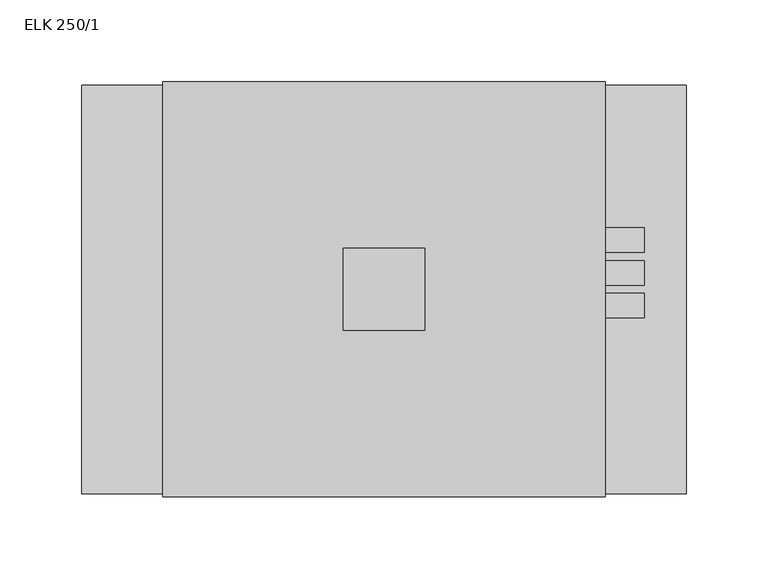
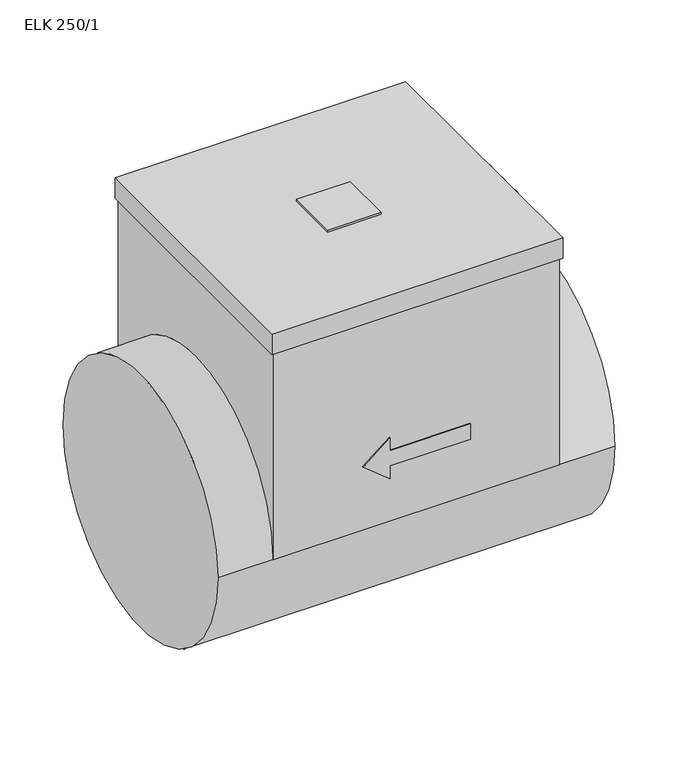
"""IFC4 building model written with IfcOpenShell, lengths in millimetres: proxy geometry, KORF_Нагреватель_Электрический_Круглый_ELK : ELK 250/1."""

from ifc_helpers import new_model, si_unit, point, frame, frame_2d, origin, place, context, project, spatial, polyline, circle_curve, trimmed, segment, composite_curve, outline, extrude, source, transform, mapped, element, save
from ifc_brep_helpers import plane_surface, cylinder_surface, advanced_brep


def elk_250_1_534a7c3e(model_context):
    return source(origin(), model_context, "Body", "SolidModel", [
        extrude(outline(polyline([(210.0, 25.0), (210.0, -25.0), (160.0, -25.0), (160.0, 25.0), (210.0, 25.0)])), frame((0.0, 0.0, 224.0), z_axis=(0.0, 0.0, 1.0), x_axis=(1.0, 0.0, 0.0)), (0.0, 0.0, 1.0), 2.0),
        extrude(outline(composite_curve([segment(trimmed(circle_curve(frame_2d((-10.0, 184.0)), 7.5), [point((-17.5, 184.0))], [point((-2.5, 184.0))], False, "CARTESIAN"), True, "CONTINUOUS"), segment(trimmed(circle_curve(frame_2d((-10.0, 184.0)), 7.5), [point((-2.5, 184.0))], [point((-17.5, 184.0))], False, "CARTESIAN"), True, "CONTINUOUS")], self_intersect=False)), frame((318.5, 0.0, 0.0), z_axis=(1.0, 0.0, 0.0), x_axis=(0.0, 1.0, 0.0)), (0.0, 0.0, 1.0), 25.75),
        extrude(outline(composite_curve([segment(trimmed(circle_curve(frame_2d((10.0, 184.0)), 7.5), [point((2.5, 184.0))], [point((17.5, 184.0))], False, "CARTESIAN"), True, "CONTINUOUS"), segment(trimmed(circle_curve(frame_2d((10.0, 184.0)), 7.5), [point((17.5, 184.0))], [point((2.5, 184.0))], False, "CARTESIAN"), True, "CONTINUOUS")], self_intersect=False)), frame((318.5, 0.0, 0.0), z_axis=(1.0, 0.0, 0.0), x_axis=(0.0, 1.0, 0.0)), (0.0, 0.0, 1.0), 25.75),
        extrude(outline(composite_curve([segment(trimmed(circle_curve(frame_2d((30.0, 184.0)), 7.5), [point((22.5, 184.0))], [point((37.5, 184.0))], False, "CARTESIAN"), True, "CONTINUOUS"), segment(trimmed(circle_curve(frame_2d((30.0, 184.0)), 7.5), [point((37.5, 184.0))], [point((22.5, 184.0))], False, "CARTESIAN"), True, "CONTINUOUS")], self_intersect=False)), frame((318.5, 0.0, 0.0), z_axis=(1.0, 0.0, 0.0), x_axis=(0.0, 1.0, 0.0)), (0.0, 0.0, 1.0), 25.75),
        advanced_brep(
        [(320.5, 127.0, 204.0), (320.5, -127.0, 204.0), (49.5, -127.0, 204.0), (49.5, 127.0, 204.0), (318.5, 125.0, 204.0), (51.5, 125.0, 204.0), (51.5, -125.0, 204.0), (318.5, -125.0, 204.0), (320.5, 127.0, 224.0), (49.5, 127.0, 224.0), (49.5, -127.0, 224.0), (320.5, -127.0, 224.0), (318.5, 125.0, 0.0), (51.5, 125.0, 0.0), (160.0, 125.0, 82.5), (135.0, 125.0, 62.5), (160.0, 125.0, 42.5), (160.0, 125.0, 55.0), (235.0, 125.0, 55.0), (235.0, 125.0, 70.0), (160.0, 125.0, 70.0), (51.5, -125.0, 0.0), (318.5, -125.0, 0.0), (135.0, -125.0, 62.5), (160.0, -125.0, 82.5), (160.0, -125.0, 70.0), (235.0, -125.0, 70.0), (235.0, -125.0, 55.0), (160.0, -125.0, 55.0), (160.0, -125.0, 42.5), (370.0, -125.0, 0.0), (370.0, 125.0, 0.0), (0.0, -125.0, 0.0), (0.0, 125.0, 0.0), (160.0, -126.0, 82.5), (135.0, -126.0, 62.5), (160.0, -126.0, 42.5), (160.0, -126.0, 55.0), (235.0, -126.0, 55.0), (235.0, -126.0, 70.0), (160.0, -126.0, 70.0), (160.0, 126.0, 82.5), (160.0, 126.0, 70.0), (235.0, 126.0, 70.0), (235.0, 126.0, 55.0), (160.0, 126.0, 55.0), (160.0, 126.0, 42.5), (135.0, 126.0, 62.5)],
        [
            (0, 1),
            (1, 2),
            (2, 3),
            (3, 0),
            (4, 5),
            (5, 6),
            (6, 7),
            (7, 4),
            (8, 9),
            (9, 10),
            (10, 11),
            (11, 8),
            (3, 9),
            (8, 0),
            (2, 10),
            (1, 11),
            (4, 12),
            (12, 13),
            (13, 5),
            (14, 15),
            (15, 16),
            (16, 17),
            (17, 18),
            (18, 19),
            (19, 20),
            (20, 14),
            (13, 21, circle_curve(frame((51.5, 0.0, 0.0), z_axis=(1.0, 0.0, 0.0), x_axis=(0.0, 1.0, 0.0)), 125.0)),
            (21, 6),
            (21, 22),
            (22, 7),
            (23, 24),
            (24, 25),
            (25, 26),
            (26, 27),
            (27, 28),
            (28, 29),
            (29, 23),
            (22, 12, circle_curve(frame((318.5, 0.0, 0.0), z_axis=(-1.0, 0.0, 0.0), x_axis=(0.0, 1.0, 0.0)), 125.0)),
            (30, 31, circle_curve(frame((370.0, 0.0, 0.0), z_axis=(1.0, 0.0, 0.0), x_axis=(0.0, 1.0, 0.0)), 125.0)),
            (31, 30, circle_curve(frame((370.0, 0.0, 0.0), z_axis=(1.0, 0.0, 0.0), x_axis=(0.0, 1.0, 0.0)), 125.0)),
            (32, 33, circle_curve(frame((0.0, 0.0, 0.0), z_axis=(-1.0, 0.0, 0.0), x_axis=(0.0, 1.0, 0.0)), 125.0)),
            (33, 32, circle_curve(frame((0.0, 0.0, 0.0), z_axis=(-1.0, 0.0, 0.0), x_axis=(0.0, 1.0, 0.0)), 125.0)),
            (30, 22),
            (21, 32),
            (33, 13),
            (12, 31),
            (34, 35),
            (35, 36),
            (36, 37),
            (37, 38),
            (38, 39),
            (39, 40),
            (40, 34),
            (41, 42),
            (42, 43),
            (43, 44),
            (44, 45),
            (45, 46),
            (46, 47),
            (47, 41),
            (34, 24),
            (23, 35),
            (47, 15),
            (14, 41),
            (29, 36),
            (46, 16),
            (28, 37),
            (45, 17),
            (27, 38),
            (44, 18),
            (26, 39),
            (43, 19),
            (25, 40),
            (42, 20),
        ],
        [
            plane_surface(frame((49.5, 127.0, 204.0), z_axis=(0.0, 0.0, -1.0), x_axis=(1.0, 0.0, 0.0))),
            plane_surface(frame((49.5, 127.0, 224.0), z_axis=(0.0, 0.0, 1.0), x_axis=(-1.0, 0.0, 0.0))),
            plane_surface(frame((320.5, 127.0, 224.0), z_axis=(0.0, 1.0, 0.0), x_axis=(0.0, 0.0, -1.0))),
            plane_surface(frame((49.5, 127.0, 224.0), z_axis=(-1.0, 0.0, 0.0), x_axis=(0.0, 0.0, -1.0))),
            plane_surface(frame((49.5, -127.0, 224.0), z_axis=(0.0, -1.0, 0.0), x_axis=(0.0, 0.0, -1.0))),
            plane_surface(frame((320.5, -127.0, 224.0), z_axis=(1.0, 0.0, 0.0), x_axis=(0.0, 0.0, -1.0))),
            plane_surface(frame((318.5, 125.0, 224.0), z_axis=(0.0, 1.0, 0.0), x_axis=(0.0, 0.0, -1.0))),
            plane_surface(frame((51.5, 125.0, 224.0), z_axis=(-1.0, 0.0, 0.0), x_axis=(0.0, 0.0, -1.0))),
            plane_surface(frame((51.5, -125.0, 224.0), z_axis=(0.0, -1.0, 0.0), x_axis=(0.0, 0.0, -1.0))),
            plane_surface(frame((318.5, -125.0, 224.0), z_axis=(1.0, 0.0, 0.0), x_axis=(0.0, 0.0, -1.0))),
            plane_surface(frame((370.0, 125.0, 0.0), z_axis=(1.0, 0.0, 0.0), x_axis=(0.0, 0.0, 1.0))),
            plane_surface(frame((0.0, 125.0, 0.0), z_axis=(-1.0, 0.0, 0.0), x_axis=(0.0, 0.0, -1.0))),
            cylinder_surface(frame((0.0, 0.0, 0.0), z_axis=(1.0, 0.0, 0.0), x_axis=(0.0, 1.0, 0.0)), 125.0),
            plane_surface(frame((135.0, -126.0, 62.5), z_axis=(0.0, -1.0000000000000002, 0.0), x_axis=(-0.7808688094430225, 0.0, -0.6246950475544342))),
            plane_surface(frame((135.0, 126.0, 62.5), z_axis=(0.0, 1.0000000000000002, 0.0), x_axis=(0.7808688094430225, 0.0, 0.6246950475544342))),
            plane_surface(frame((160.0, -126.0, 82.5), z_axis=(-0.6246950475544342, 0.0, 0.7808688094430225), x_axis=(0.0, 1.0, 0.0))),
            plane_surface(frame((135.0, -126.0, 62.5), z_axis=(-0.6246950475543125, 0.0, -0.7808688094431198), x_axis=(0.0, 1.0, 0.0))),
            plane_surface(frame((160.0, -126.0, 42.5), z_axis=(1.0, 0.0, 0.0), x_axis=(0.0, 1.0, 0.0))),
            plane_surface(frame((160.0, -126.0, 55.0), z_axis=(0.0, 0.0, -1.0), x_axis=(0.0, 1.0, 0.0))),
            plane_surface(frame((235.0, -126.0, 55.0), z_axis=(1.0, 0.0, 0.0), x_axis=(0.0, 1.0, 0.0))),
            plane_surface(frame((235.0, -126.0, 70.0), z_axis=(0.0, 0.0, 1.0), x_axis=(0.0, 1.0, 0.0))),
            plane_surface(frame((160.0, -126.0, 70.0), z_axis=(1.0, 0.0, 0.0), x_axis=(0.0, 1.0, 0.0))),
        ],
        [
            (0, [[1, 2, 3, 4], [5, 6, 7, 8]]),
            (1, [[9, 10, 11, 12]]),
            (2, [[-4, 13, -9, 14]]),
            (3, [[-3, 15, -10, -13]]),
            (4, [[-2, 16, -11, -15]]),
            (5, [[-1, -14, -12, -16]]),
            (6, [[17, 18, 19, -5], [20, 21, 22, 23, 24, 25, 26]]),
            (7, [[-19, 27, 28, -6]]),
            (8, [[-28, 29, 30, -7], [31, 32, 33, 34, 35, 36, 37]]),
            (9, [[-17, -8, -30, 38]]),
            (10, [[39, 40]]),
            (11, [[41, 42]]),
            (12, [[-39, 43, -29, 44, -42, 45, -18, 46]]),
            (12, [[-40, -46, -38, -43]]),
            (12, [[-41, -44, -27, -45]]),
            (13, [[47, 48, 49, 50, 51, 52, 53]]),
            (14, [[54, 55, 56, 57, 58, 59, 60]]),
            (15, [[-47, 61, -31, 62]]),
            (15, [[-60, 63, -20, 64]]),
            (16, [[-48, -62, -37, 65]]),
            (16, [[-59, 66, -21, -63]]),
            (17, [[-49, -65, -36, 67]]),
            (17, [[-58, 68, -22, -66]]),
            (18, [[-50, -67, -35, 69]]),
            (18, [[-57, 70, -23, -68]]),
            (19, [[-51, -69, -34, 71]]),
            (19, [[-56, 72, -24, -70]]),
            (20, [[-52, -71, -33, 73]]),
            (20, [[-55, 74, -25, -72]]),
            (21, [[-53, -73, -32, -61]]),
            (21, [[-54, -64, -26, -74]]),
        ],
    ),
    ])


if __name__ == "__main__":
    model = new_model("IFC4")
    model_context = context("Model", 3, world=origin())
    ifc_project = project(units=[si_unit("LENGTHUNIT", "METRE", prefix="MILLI")], contexts=[model_context])
    site = spatial("IfcSite", under=ifc_project)
    building = spatial("IfcBuilding", under=site)
    placement = place(None, origin())
    elk_250_1_shape = elk_250_1_534a7c3e(model_context)
    element("IfcBuildingElementProxy", 1, Name="KORF_Нагреватель_Электрический_Круглый_ELK : ELK 250/1", ObjectType="KORF_Нагреватель_Электрический_Круглый_ELK : ELK 250/1", at=placement, inside=building, context=model_context, shape_type="MappedRepresentation", body=[
        mapped(elk_250_1_shape, transform((0.0, 0.0, 0.0), x_axis=(1.0, 0.0, 0.0), y_axis=(0.0, 1.0, 0.0), z_axis=(0.0, 0.0, 1.0))),
    ])
    save(model, "model.ifc")
